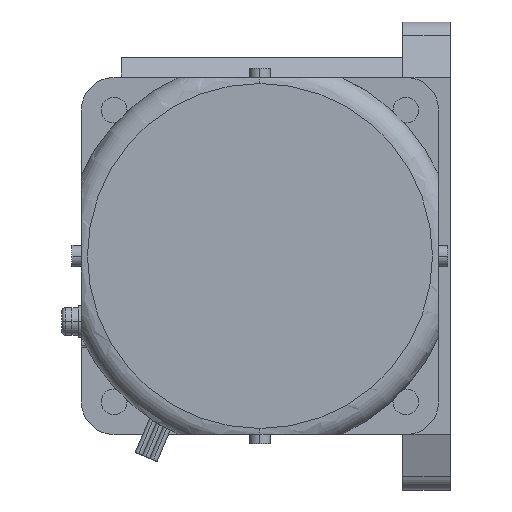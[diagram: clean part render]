
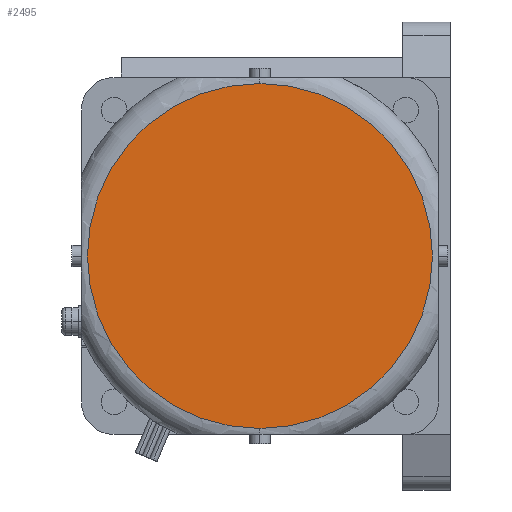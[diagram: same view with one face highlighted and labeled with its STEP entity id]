
A CAD part, left-side view. The second image highlights one B-rep face of the part: STEP entity #2495.
In plain terms, the highlighted planar face has unit normal (-1, 0, 0).
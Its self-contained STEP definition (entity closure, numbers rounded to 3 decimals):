
#2475=CARTESIAN_POINT('POINT493897',(-196.5,48.,26.5));
#2476=VERTEX_POINT('VERTEX493897',#2475);
#2477=CARTESIAN_POINT('POINT493898',(-196.5,48.,-60.5));
#2478=VERTEX_POINT('VERTEX493898',#2477);
#2479=CARTESIAN_POINT('POS825452',(-196.5,48.,-17.));
#2480=DIRECTION('DIR1242842',(-1.,0.,0.));
#2481=DIRECTION('DIR1242843',(0.,0.,-1.));
#2482=AXIS2_PLACEMENT_3D('AXIS417391',#2479,#2480,#2481);
#2483=CIRCLE('ELLIPSE194942',#2482,43.5);
#2484=EDGE_CURVE('EDGE753975',#2476,#2478,#2483,.T.);
#2485=ORIENTED_EDGE('COEDGE1507933',*,*,#2484,.T.);
#2486=EDGE_CURVE('EDGE753976',#2478,#2476,#2483,.T.);
#2487=ORIENTED_EDGE('COEDGE1507934',*,*,#2486,.T.);
#2488=EDGE_LOOP('NONE',(#2485,#2487));
#2489=FACE_BOUND('LOOP1',#2488,.T.);
#2490=CARTESIAN_POINT('POS825453',(-196.5,48.,
   5.25));
#2491=DIRECTION('DIR1242844',(-1.,0.,0.));
#2492=DIRECTION('DIR1242845',(0.,1.,0.));
#2493=AXIS2_PLACEMENT_3D('AXIS417392',#2490,#2491,#2492);
#2494=PLANE('PLANE134306',#2493);
#2495=ADVANCED_FACE('FACE308549',(#2489),#2494,.T.);
